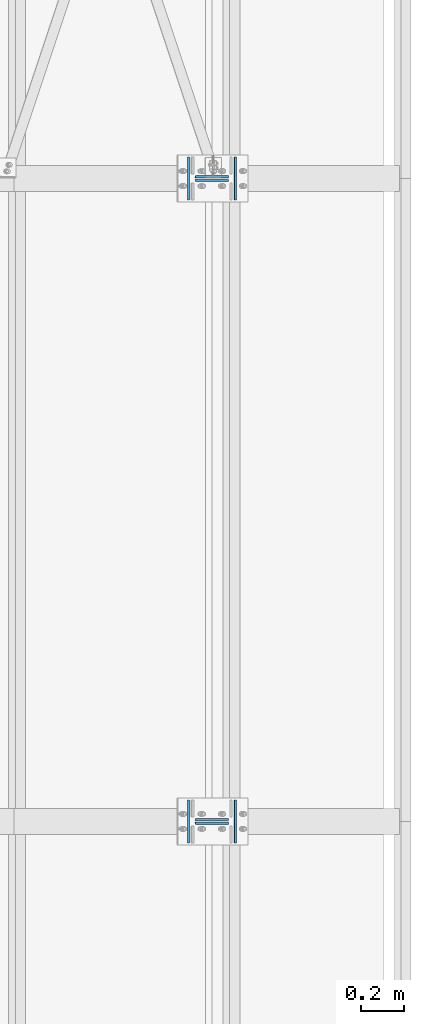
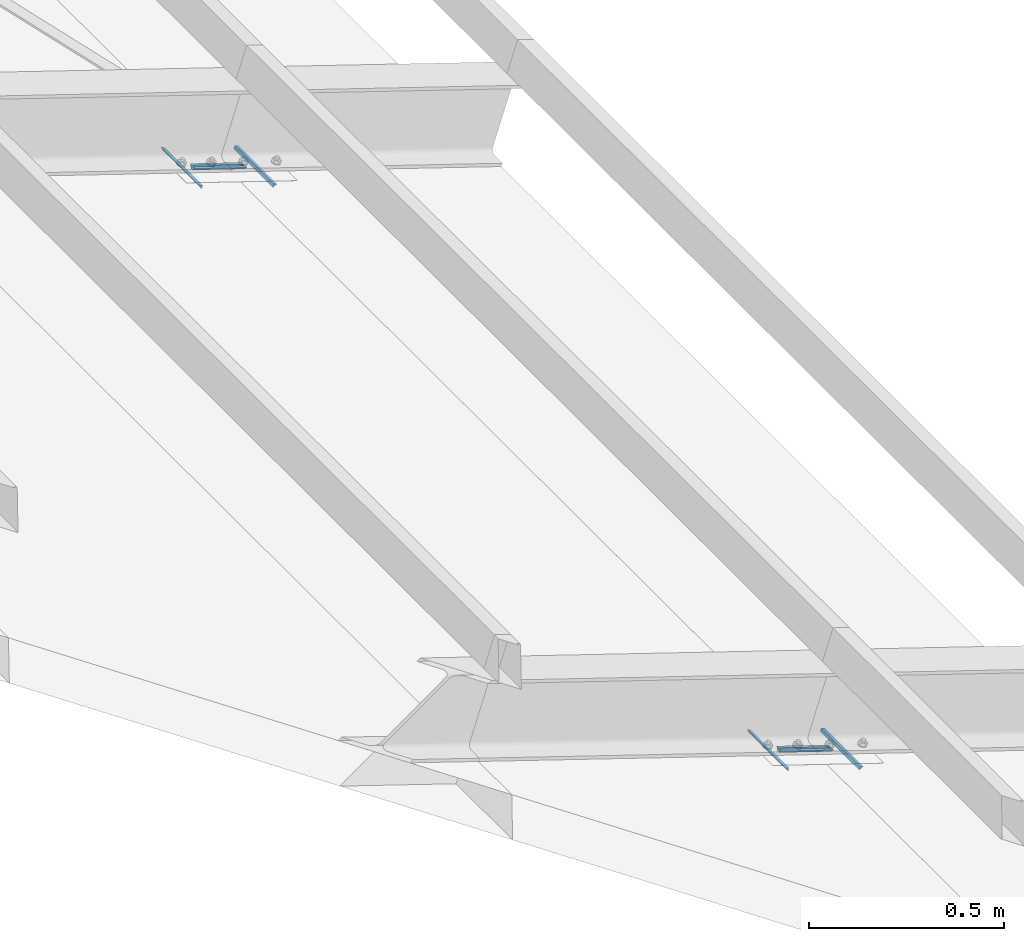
# One storey, part 21 of 53: 16 fasteners.
"""IFC4 building model written with IfcOpenShell, lengths in metres."""

from ifc_helpers import new_model, si_unit, frame, origin_with_axes, place, context, project, spatial, polyline, outline, extrude, type_object, element, save


model = new_model("IFC4")

# Units and contexts
model_context = context("Model", 3, precision=1e-05, world=origin_with_axes())
ifc_project = project(units=[si_unit("LENGTHUNIT", "METRE"), si_unit("AREAUNIT", "SQUARE_METRE"), si_unit("VOLUMEUNIT", "CUBIC_METRE"), si_unit("MASSUNIT", "GRAM", prefix="KILO"), si_unit("TIMEUNIT", "SECOND"), si_unit("PLANEANGLEUNIT", "RADIAN"), si_unit("SOLIDANGLEUNIT", "STERADIAN"), si_unit("THERMODYNAMICTEMPERATUREUNIT", "DEGREE_CELSIUS")], contexts=[model_context])

# Site, building, storey
placement_1 = place(None, origin_with_axes())
site = spatial("IfcSite", under=ifc_project, at=placement_1, Name="Italia", CompositionType="ELEMENT")
building = spatial("IfcBuilding", under=site, at=placement_1, Name="Capannone", CompositionType="ELEMENT")
storey_placement = place(None, frame((0.0, 0.0, 5.550000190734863), z_axis=(0.0, 0.0, 1.0), x_axis=(1.0, 0.0, 0.0)))
storey = spatial("IfcBuildingStorey", under=building, at=storey_placement, Name="Storey 1", CompositionType="ELEMENT", Elevation=5.550000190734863)

# Fasteners
fastener_type_1 = type_object("IfcFastenerType", Name="Collegamenti 0102_0002 0104_0004 0106_0006 0108_0008 0110_0010 0112_0012", PredefinedType="WELD")
placement_2 = place(placement_1, origin_with_axes())
fastener_1_placement = place(placement_2, origin_with_axes())
element("IfcFastener", 1, at=fastener_1_placement, inside=storey, type_object=fastener_type_1, Name="Collegamenti 0102_0002 0104_0004 0106_0006 0108_0008 0110_0010 0112_0012", context=model_context, shape_type="SweptSolid", body=[
    extrude(outline(polyline([(0.0, 0.0), (-0.00619888, -0.0127454), (-0.00937462, -0.00308037), (0.0, 0.0)])), frame((13.8857, 8.89995, 5.57182), z_axis=(0.0, 1.0, 0.0), x_axis=(-1.0, 0.0, 0.0)), (0.0, 0.0, 1.0), 0.2001),
])
fastener_type_2 = type_object("IfcFastenerType", Name="Collegamenti 0102_0002 0104_0004 0106_0006 0108_0008 0110_0010 0112_0012", PredefinedType="WELD")
fastener_2_placement = place(placement_2, origin_with_axes())
element("IfcFastener", 2, at=fastener_2_placement, inside=storey, type_object=fastener_type_2, Name="Collegamenti 0102_0002 0104_0004 0106_0006 0108_0008 0110_0010 0112_0012", context=model_context, shape_type="SweptSolid", body=[
    extrude(outline(polyline([(0.0, 0.0), (-0.0125504, -0.00658464), (-0.00937462, 0.00308037), (0.0, 0.0)])), frame((14.1143, 9.10005, 5.4967), z_axis=(0.0, -1.0, 0.0), x_axis=(1.0, 0.0, 0.0)), (0.0, 0.0, 1.0), 0.2001),
])
fastener_type_3 = type_object("IfcFastenerType", Name="Collegamenti 0102_0002 0104_0004 0106_0006 0108_0008 0110_0010 0112_0012", PredefinedType="WELD")
fastener_3_placement = place(placement_2, origin_with_axes())
element("IfcFastener", 3, at=fastener_3_placement, inside=storey, type_object=fastener_type_3, Name="Collegamenti 0102_0002 0104_0004 0106_0006 0108_0008 0110_0010 0112_0012", context=model_context, shape_type="SweptSolid", body=[
    extrude(outline(polyline([(0.0, 0.0), (-0.00986767, -0.0101738), (-0.00986767, 0.0), (0.0, 0.0)])), frame((13.9231, 9.01332, 5.55954), z_axis=(0.950030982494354, 0.0, -0.312155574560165), x_axis=(0.0, 1.0, 0.0)), (0.0, 0.0, 1.0), 0.161989),
])
fastener_type_4 = type_object("IfcFastenerType", Name="Collegamenti 0102_0002 0104_0004 0106_0006 0108_0008 0110_0010 0112_0012", PredefinedType="WELD")
fastener_4_placement = place(placement_2, origin_with_axes())
element("IfcFastener", 4, at=fastener_4_placement, inside=storey, type_object=fastener_type_4, Name="Collegamenti 0102_0002 0104_0004 0106_0006 0108_0008 0110_0010 0112_0012", context=model_context, shape_type="SweptSolid", body=[
    extrude(outline(polyline([(0.0, 0.0), (-0.00986767, -0.0101738), (-0.00986767, 0.0), (0.0, 0.0)])), frame((14.077, 8.98668, 5.50898), z_axis=(-0.950030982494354, 0.0, 0.312155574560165), x_axis=(0.0, -1.0, 0.0)), (0.0, 0.0, 1.0), 0.161989),
])
fastener_type_5 = type_object("IfcFastenerType", Name="Collegamenti 0102_0002 0104_0004 0106_0006 0108_0008 0110_0010 0112_0012", PredefinedType="WELD")
fastener_5_placement = place(placement_2, origin_with_axes())
element("IfcFastener", 5, at=fastener_5_placement, inside=storey, type_object=fastener_type_5, Name="Collegamenti 0102_0002 0104_0004 0106_0006 0108_0008 0110_0010 0112_0012", context=model_context, shape_type="SweptSolid", body=[
    extrude(outline(polyline([(0.0, 0.0), (-0.00619888, -0.0127454), (-0.00937462, -0.00308037), (0.0, 0.0)])), frame((13.8857, 8.89995, 5.57182), z_axis=(0.0, 1.0, 0.0), x_axis=(-1.0, 0.0, 0.0)), (0.0, 0.0, 1.0), 0.2001),
])
fastener_type_6 = type_object("IfcFastenerType", Name="Collegamenti 0102_0002 0104_0004 0106_0006 0108_0008 0110_0010 0112_0012", PredefinedType="WELD")
fastener_6_placement = place(placement_2, origin_with_axes())
element("IfcFastener", 6, at=fastener_6_placement, inside=storey, type_object=fastener_type_6, Name="Collegamenti 0102_0002 0104_0004 0106_0006 0108_0008 0110_0010 0112_0012", context=model_context, shape_type="SweptSolid", body=[
    extrude(outline(polyline([(0.0, 0.0), (-0.0125504, -0.00658464), (-0.00937462, 0.00308037), (0.0, 0.0)])), frame((14.1143, 9.10005, 5.4967), z_axis=(0.0, -1.0, 0.0), x_axis=(1.0, 0.0, 0.0)), (0.0, 0.0, 1.0), 0.2001),
])
fastener_type_7 = type_object("IfcFastenerType", Name="Collegamenti 0102_0002 0104_0004 0106_0006 0108_0008 0110_0010 0112_0012", PredefinedType="WELD")
fastener_7_placement = place(placement_2, origin_with_axes())
element("IfcFastener", 7, at=fastener_7_placement, inside=storey, type_object=fastener_type_7, Name="Collegamenti 0102_0002 0104_0004 0106_0006 0108_0008 0110_0010 0112_0012", context=model_context, shape_type="SweptSolid", body=[
    extrude(outline(polyline([(0.0, 0.0), (-0.00986767, -0.0101738), (-0.00986767, 0.0), (0.0, 0.0)])), frame((13.9231, 9.01332, 5.55954), z_axis=(0.950030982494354, 0.0, -0.312155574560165), x_axis=(0.0, 1.0, 0.0)), (0.0, 0.0, 1.0), 0.161989),
])
fastener_type_8 = type_object("IfcFastenerType", Name="Collegamenti 0102_0002 0104_0004 0106_0006 0108_0008 0110_0010 0112_0012", PredefinedType="WELD")
fastener_8_placement = place(placement_2, origin_with_axes())
element("IfcFastener", 8, at=fastener_8_placement, inside=storey, type_object=fastener_type_8, Name="Collegamenti 0102_0002 0104_0004 0106_0006 0108_0008 0110_0010 0112_0012", context=model_context, shape_type="SweptSolid", body=[
    extrude(outline(polyline([(0.0, 0.0), (-0.00986767, -0.0101738), (-0.00986767, 0.0), (0.0, 0.0)])), frame((14.077, 8.98668, 5.50898), z_axis=(-0.950030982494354, 0.0, 0.312155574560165), x_axis=(0.0, -1.0, 0.0)), (0.0, 0.0, 1.0), 0.161989),
])
fastener_type_9 = type_object("IfcFastenerType", Name="Collegamenti 0102_0002 0104_0004 0106_0006 0108_0008 0110_0010 0112_0012", PredefinedType="WELD")
fastener_9_placement = place(placement_2, origin_with_axes())
element("IfcFastener", 9, at=fastener_9_placement, inside=storey, type_object=fastener_type_9, Name="Collegamenti 0102_0002 0104_0004 0106_0006 0108_0008 0110_0010 0112_0012", context=model_context, shape_type="SweptSolid", body=[
    extrude(outline(polyline([(0.0, 0.0), (-0.00619888, -0.0127454), (-0.00937462, -0.00308037), (0.0, 0.0)])), frame((13.8857, 11.9, 5.57182), z_axis=(0.0, 1.0, 0.0), x_axis=(-1.0, 0.0, 0.0)), (0.0, 0.0, 1.0), 0.2001),
])
fastener_type_10 = type_object("IfcFastenerType", Name="Collegamenti 0102_0002 0104_0004 0106_0006 0108_0008 0110_0010 0112_0012", PredefinedType="WELD")
fastener_10_placement = place(placement_2, origin_with_axes())
element("IfcFastener", 10, at=fastener_10_placement, inside=storey, type_object=fastener_type_10, Name="Collegamenti 0102_0002 0104_0004 0106_0006 0108_0008 0110_0010 0112_0012", context=model_context, shape_type="SweptSolid", body=[
    extrude(outline(polyline([(0.0, 0.0), (-0.0125504, -0.00658464), (-0.00937462, 0.00308037), (0.0, 0.0)])), frame((14.1143, 12.1, 5.4967), z_axis=(0.0, -1.0, 0.0), x_axis=(1.0, 0.0, 0.0)), (0.0, 0.0, 1.0), 0.2001),
])
fastener_type_11 = type_object("IfcFastenerType", Name="Collegamenti 0102_0002 0104_0004 0106_0006 0108_0008 0110_0010 0112_0012", PredefinedType="WELD")
fastener_11_placement = place(placement_2, origin_with_axes())
element("IfcFastener", 11, at=fastener_11_placement, inside=storey, type_object=fastener_type_11, Name="Collegamenti 0102_0002 0104_0004 0106_0006 0108_0008 0110_0010 0112_0012", context=model_context, shape_type="SweptSolid", body=[
    extrude(outline(polyline([(0.0, 0.0), (-0.00986767, -0.0101738), (-0.00986767, 0.0), (0.0, 0.0)])), frame((13.9231, 12.0133, 5.55954), z_axis=(0.950030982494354, 0.0, -0.312155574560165), x_axis=(0.0, 1.0, 0.0)), (0.0, 0.0, 1.0), 0.161989),
])
fastener_type_12 = type_object("IfcFastenerType", Name="Collegamenti 0102_0002 0104_0004 0106_0006 0108_0008 0110_0010 0112_0012", PredefinedType="WELD")
fastener_12_placement = place(placement_2, origin_with_axes())
element("IfcFastener", 12, at=fastener_12_placement, inside=storey, type_object=fastener_type_12, Name="Collegamenti 0102_0002 0104_0004 0106_0006 0108_0008 0110_0010 0112_0012", context=model_context, shape_type="SweptSolid", body=[
    extrude(outline(polyline([(0.0, 0.0), (-0.00986767, -0.0101738), (-0.00986767, 0.0), (0.0, 0.0)])), frame((14.077, 11.9867, 5.50898), z_axis=(-0.950030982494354, 0.0, 0.312155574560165), x_axis=(0.0, -1.0, 0.0)), (0.0, 0.0, 1.0), 0.161989),
])
fastener_type_13 = type_object("IfcFastenerType", Name="Collegamenti 0102_0002 0104_0004 0106_0006 0108_0008 0110_0010 0112_0012", PredefinedType="WELD")
fastener_13_placement = place(placement_2, origin_with_axes())
element("IfcFastener", 13, at=fastener_13_placement, inside=storey, type_object=fastener_type_13, Name="Collegamenti 0102_0002 0104_0004 0106_0006 0108_0008 0110_0010 0112_0012", context=model_context, shape_type="SweptSolid", body=[
    extrude(outline(polyline([(0.0, 0.0), (-0.00619888, -0.0127454), (-0.00937462, -0.00308037), (0.0, 0.0)])), frame((13.8857, 11.9, 5.57182), z_axis=(0.0, 1.0, 0.0), x_axis=(-1.0, 0.0, 0.0)), (0.0, 0.0, 1.0), 0.2001),
])
fastener_type_14 = type_object("IfcFastenerType", Name="Collegamenti 0102_0002 0104_0004 0106_0006 0108_0008 0110_0010 0112_0012", PredefinedType="WELD")
fastener_14_placement = place(placement_2, origin_with_axes())
element("IfcFastener", 14, at=fastener_14_placement, inside=storey, type_object=fastener_type_14, Name="Collegamenti 0102_0002 0104_0004 0106_0006 0108_0008 0110_0010 0112_0012", context=model_context, shape_type="SweptSolid", body=[
    extrude(outline(polyline([(0.0, 0.0), (-0.0125504, -0.00658464), (-0.00937462, 0.00308037), (0.0, 0.0)])), frame((14.1143, 12.1, 5.4967), z_axis=(0.0, -1.0, 0.0), x_axis=(1.0, 0.0, 0.0)), (0.0, 0.0, 1.0), 0.2001),
])
fastener_type_15 = type_object("IfcFastenerType", Name="Collegamenti 0102_0002 0104_0004 0106_0006 0108_0008 0110_0010 0112_0012", PredefinedType="WELD")
fastener_15_placement = place(placement_2, origin_with_axes())
element("IfcFastener", 15, at=fastener_15_placement, inside=storey, type_object=fastener_type_15, Name="Collegamenti 0102_0002 0104_0004 0106_0006 0108_0008 0110_0010 0112_0012", context=model_context, shape_type="SweptSolid", body=[
    extrude(outline(polyline([(0.0, 0.0), (-0.00986767, -0.0101738), (-0.00986767, 0.0), (0.0, 0.0)])), frame((13.9231, 12.0133, 5.55954), z_axis=(0.950030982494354, 0.0, -0.312155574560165), x_axis=(0.0, 1.0, 0.0)), (0.0, 0.0, 1.0), 0.161989),
])
fastener_type_16 = type_object("IfcFastenerType", Name="Collegamenti 0102_0002 0104_0004 0106_0006 0108_0008 0110_0010 0112_0012", PredefinedType="WELD")
fastener_16_placement = place(placement_2, origin_with_axes())
element("IfcFastener", 16, at=fastener_16_placement, inside=storey, type_object=fastener_type_16, Name="Collegamenti 0102_0002 0104_0004 0106_0006 0108_0008 0110_0010 0112_0012", context=model_context, shape_type="SweptSolid", body=[
    extrude(outline(polyline([(0.0, 0.0), (-0.00986767, -0.0101738), (-0.00986767, 0.0), (0.0, 0.0)])), frame((14.077, 11.9867, 5.50898), z_axis=(-0.950030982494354, 0.0, 0.312155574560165), x_axis=(0.0, -1.0, 0.0)), (0.0, 0.0, 1.0), 0.161989),
])

save(model, "model.ifc")
